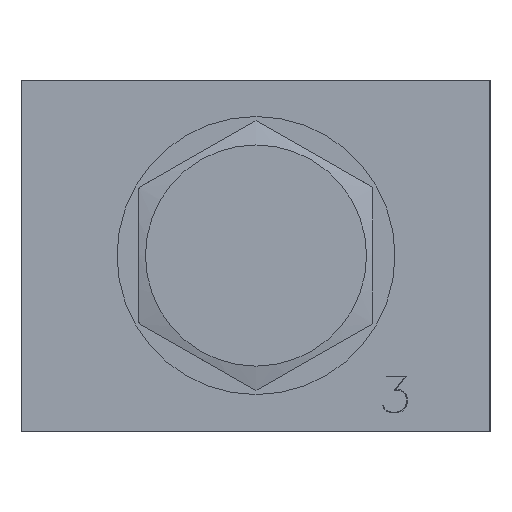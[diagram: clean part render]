
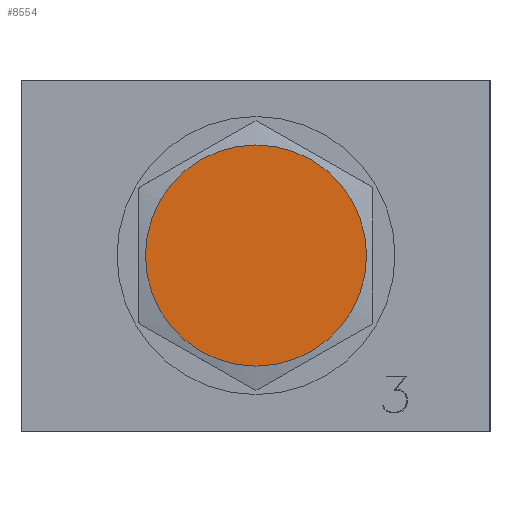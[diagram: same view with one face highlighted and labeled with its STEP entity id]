
A CAD part, left-side view. The second image highlights one B-rep face of the part: STEP entity #8554.
In plain terms, the highlighted planar face has unit normal (-1, 0, 0) as drawn and (0, 0, 1) by its records, which use the part's own axes.
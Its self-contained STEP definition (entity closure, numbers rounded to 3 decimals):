
#266=CIRCLE('',#9258,12.);
#3395=ORIENTED_EDGE('',*,*,#4727,.F.);
#4727=EDGE_CURVE('',#5611,#5611,#266,.T.);
#5611=VERTEX_POINT('',#14226);
#6927=EDGE_LOOP('',(#3395));
#7582=FACE_BOUND('',#6927,.T.);
#8079=PLANE('',#9257);
#8554=ADVANCED_FACE('',(#7582),#8079,.F.);
#9257=AXIS2_PLACEMENT_3D('',#14224,#10835,#10836);
#9258=AXIS2_PLACEMENT_3D('',#14225,#10837,#10838);
#10835=DIRECTION('',(0.,0.,-1.));
#10836=DIRECTION('',(-1.,0.,0.));
#10837=DIRECTION('',(0.,0.,-1.));
#10838=DIRECTION('',(-1.,0.,0.));
#14224=CARTESIAN_POINT('',(-7.368,12.7,5.));
#14225=CARTESIAN_POINT('',(0.,0.,5.));
#14226=CARTESIAN_POINT('',(-12.,0.,5.));
